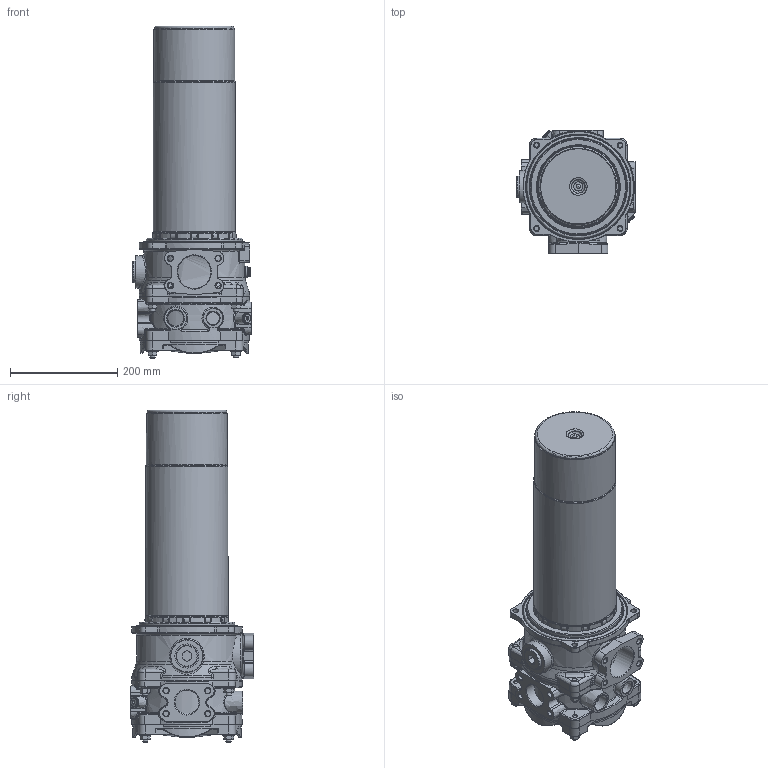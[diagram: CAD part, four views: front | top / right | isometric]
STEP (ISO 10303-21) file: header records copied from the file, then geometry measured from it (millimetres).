
FILE_DESCRIPTION((''),'2;1');
FILE_NAME('U:\Users\t.schleuter\E_598-256.stp','2013-05-07T15:55:56', ('User'),('SDRC'),'I-DEAS Master Series 9','UNIX','Yes');
FILE_SCHEMA(('AUTOMOTIVE_DESIGN { 1 0 10303 214 1 1 1 1 }'));
Length unit declared in the file: millimetre
Products named in the file (1): Rücklaufsaugfilter_E_598-256
Bounding box: 220.6 x 231 x 619.5 mm (x, y, z)
Volume: 13819180.2 mm3; surface area: 679565.1 mm2
Topology: 1 solids, 69 shells, 2647 faces, 6104 edges, 3490 vertices
Faces by surface type: bspline 2647
Entity records: 107632 total; most frequent: CARTESIAN_POINT 74048, ORIENTED_EDGE 11764, EDGE_CURVE 5882, VERTEX_POINT 3463, B_SPLINE_CURVE_WITH_KNOTS 3136, EDGE_LOOP 2785, FACE_OUTER_BOUND 2647, ADVANCED_FACE 2647
